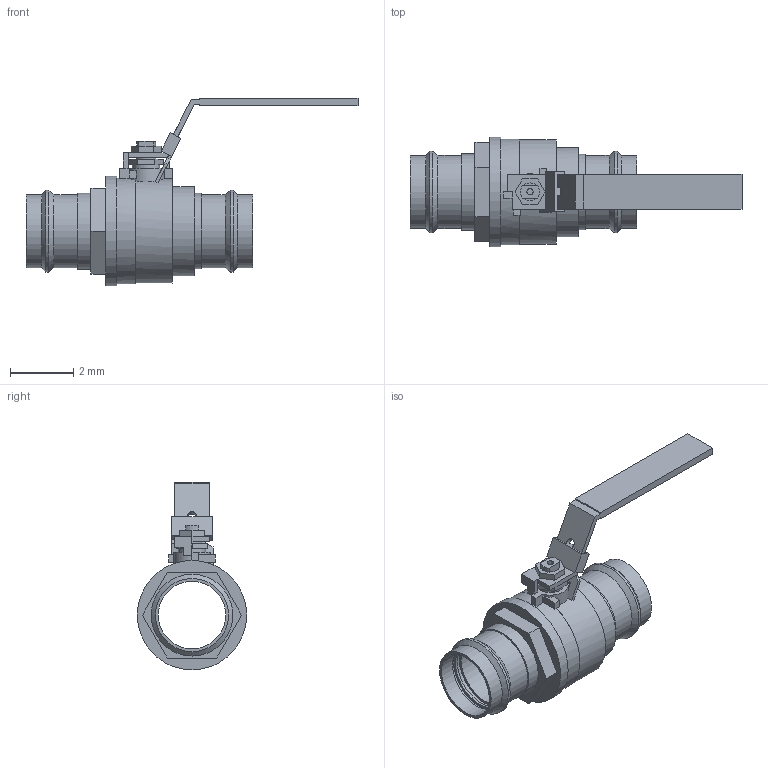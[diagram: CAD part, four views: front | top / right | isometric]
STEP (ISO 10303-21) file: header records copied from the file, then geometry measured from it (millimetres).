
FILE_DESCRIPTION(('Open CASCADE Model'),'2;1');
FILE_NAME('Open CASCADE Shape Model','2022-07-29T14:51:35',('Author'),( 'Open CASCADE'),'Open CASCADE STEP processor 7.3','Open CASCADE 7.3' ,'Unknown');
FILE_SCHEMA(('AUTOMOTIVE_DESIGN { 1 0 10303 214 1 1 1 1 }'));
Length unit declared in the file: millimetre
Products named in the file (12): Open CASCADE STEP translator 7.3 1; Open CASCADE STEP translator 7.3 1.1; Open CASCADE STEP translator 7.3 1.1.1; Open CASCADE STEP translator 7.3 1.1.2; Open CASCADE STEP translator 7.3 1.1.3; Open CASCADE STEP translator 7.3 1.1.4; Open CASCADE STEP translator 7.3 1.1.5; Open CASCADE STEP translator 7.3 1.1.6; Open CASCADE STEP translator 7.3 1.1.7; Open CASCADE STEP translator 7.3 1.1.8; Open CASCADE STEP translator 7.3 1.1.9; Open CASCADE STEP translator 7.3 1.2
Assembly tree (11 placements, depth 3):
  Open CASCADE STEP translator 7.3 1
    Open CASCADE STEP translator 7.3 1.1
      Open CASCADE STEP translator 7.3 1.1.1
      Open CASCADE STEP translator 7.3 1.1.2
      Open CASCADE STEP translator 7.3 1.1.3
      Open CASCADE STEP translator 7.3 1.1.4
      Open CASCADE STEP translator 7.3 1.1.5
      Open CASCADE STEP translator 7.3 1.1.6
      Open CASCADE STEP translator 7.3 1.1.7
      Open CASCADE STEP translator 7.3 1.1.8
      Open CASCADE STEP translator 7.3 1.1.9
    Open CASCADE STEP translator 7.3 1.2
Bounding box: 10.48 x 3.45 x 5.92 mm (x, y, z)
Volume: 19.5 mm3; surface area: 162.1 mm2
Topology: 6 solids, 10 shells, 145 faces, 368 edges, 245 vertices
Faces by surface type: plane 108, cylinder 31, cone 6
Full cylindrical faces by diameter (mm): 0.197 x1, 0.653 x1, 0.86 x1, 2.131 x5, 2.304 x4, 2.306 x4, 2.389 x1, 2.402 x1, 2.583 x2, 2.813 x1, 3.328 x1, 3.454 x1
Entity records: 9730 total; most frequent: CARTESIAN_POINT 2116, DIRECTION 1415, LINE 895, VECTOR 895, ORIENTED_EDGE 724, PCURVE 724, DEFINITIONAL_REPRESENTATION 724, EDGE_CURVE 368
